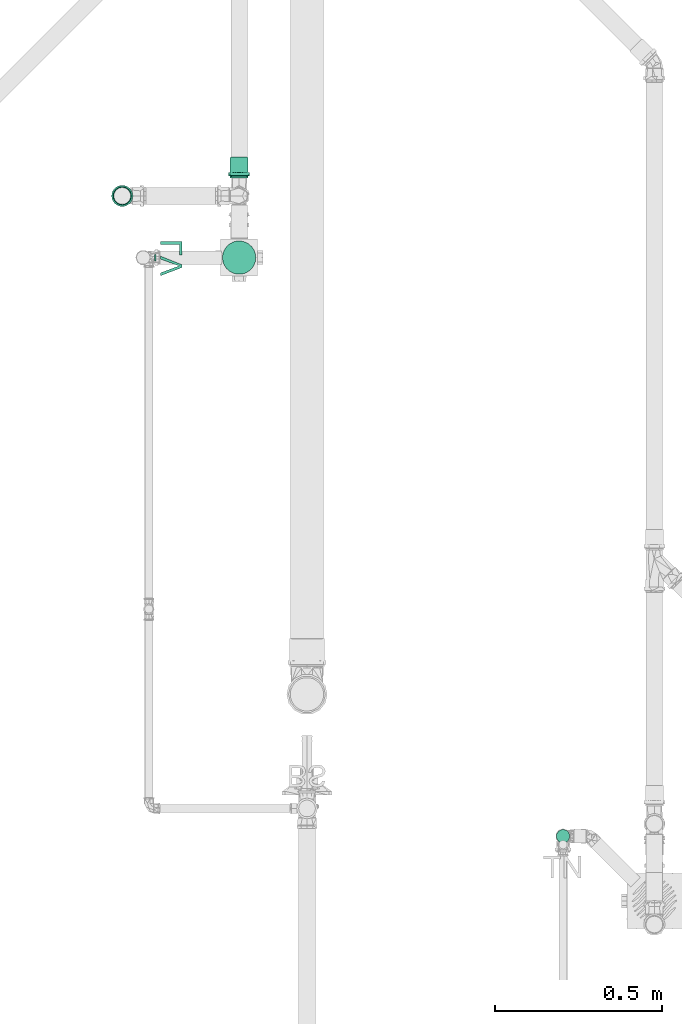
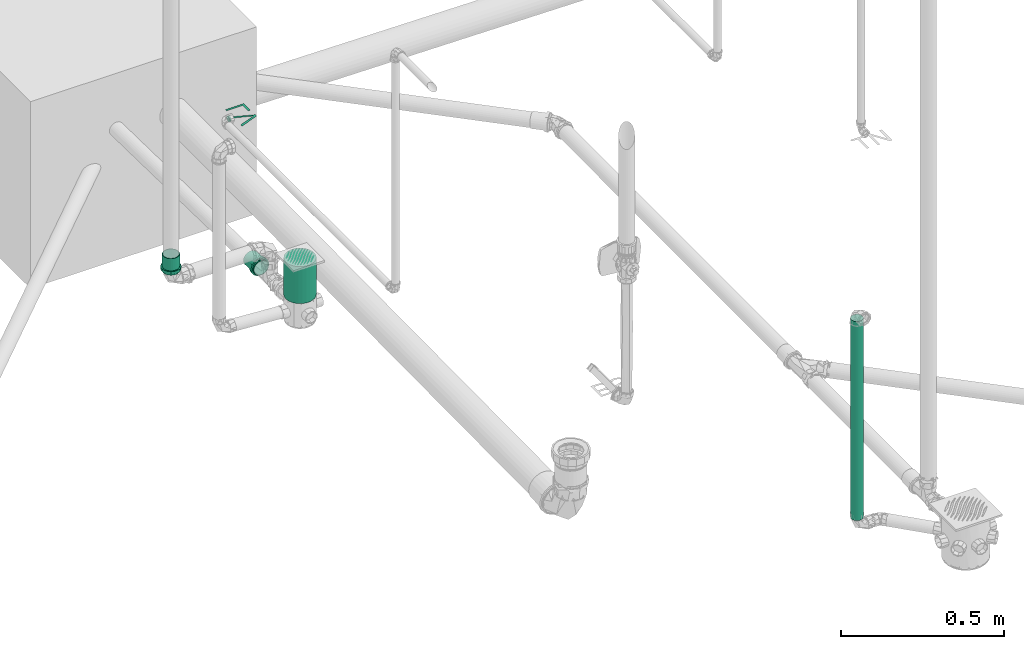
# One storey, part 216 of 589: 2 flow fittings, 2 flow segments, 1 flow terminal.
"""IFC2X3 building model written with IfcOpenShell, lengths in millimetres."""

from ifc_helpers import new_model, entity, si_unit, converted_unit, derived_unit, direction, frame, frame_2d, origin, origin_2d_with_axis, place, context, subcontext, project, spatial, circle, extrude, face_set, faceted_brep, surface_model, source, transform, mapped, material, type_object, type_shapes, element, save


model = new_model("IFC2X3")

# Units and contexts
model_context = context("Model", 3, precision=0.01, world=origin(), true_north=direction((6.123031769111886e-17, 1.0)))
body_context = subcontext(model_context, "Body", "Model", "MODEL_VIEW")
ifc_project = project(units=[si_unit("LENGTHUNIT", "METRE", prefix="MILLI"), si_unit("AREAUNIT", "SQUARE_METRE"), si_unit("VOLUMEUNIT", "CUBIC_METRE"), converted_unit("PLANEANGLEUNIT", "DEGREE", entity("IfcRatioMeasure", 0.017453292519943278), si_unit("PLANEANGLEUNIT", "RADIAN"), dimensions=[0, 0, 0, 0, 0, 0, 0]), si_unit("MASSUNIT", "GRAM", prefix="KILO"), derived_unit("MASSDENSITYUNIT", [(si_unit("MASSUNIT", "GRAM", prefix="KILO"), 1), (si_unit("LENGTHUNIT", "METRE"), -3)]), derived_unit("IONCONCENTRATIONUNIT", [(si_unit("MASSUNIT", "GRAM", prefix="KILO"), 1), (si_unit("LENGTHUNIT", "METRE"), -3)]), derived_unit("MOMENTOFINERTIAUNIT", [(si_unit("LENGTHUNIT", "METRE"), 4)]), si_unit("TIMEUNIT", "SECOND"), si_unit("FREQUENCYUNIT", "HERTZ"), si_unit("THERMODYNAMICTEMPERATUREUNIT", "DEGREE_CELSIUS"), derived_unit("THERMALTRANSMITTANCEUNIT", [(si_unit("MASSUNIT", "GRAM", prefix="KILO"), 1), (si_unit("THERMODYNAMICTEMPERATUREUNIT", "KELVIN"), -1), (si_unit("TIMEUNIT", "SECOND"), -3)]), derived_unit("THERMALCONDUCTANCEUNIT", [(si_unit("MASSUNIT", "GRAM", prefix="KILO"), 1), (si_unit("THERMODYNAMICTEMPERATUREUNIT", "KELVIN"), -1), (si_unit("TIMEUNIT", "SECOND"), -3), (si_unit("LENGTHUNIT", "METRE"), 1)]), derived_unit("VOLUMETRICFLOWRATEUNIT", [(si_unit("LENGTHUNIT", "METRE"), 3), (si_unit("TIMEUNIT", "SECOND"), -1)]), derived_unit("MASSFLOWRATEUNIT", [(si_unit("MASSUNIT", "GRAM", prefix="KILO"), 1), (si_unit("TIMEUNIT", "SECOND"), -1)]), derived_unit("ROTATIONALFREQUENCYUNIT", [(si_unit("TIMEUNIT", "SECOND"), -1)]), si_unit("ELECTRICCURRENTUNIT", "AMPERE"), si_unit("ELECTRICVOLTAGEUNIT", "VOLT"), si_unit("POWERUNIT", "WATT"), si_unit("FORCEUNIT", "NEWTON", prefix="KILO"), si_unit("ILLUMINANCEUNIT", "LUX"), si_unit("LUMINOUSFLUXUNIT", "LUMEN"), si_unit("LUMINOUSINTENSITYUNIT", "CANDELA"), derived_unit("USERDEFINED", [(si_unit("MASSUNIT", "GRAM", prefix="KILO"), -1), (si_unit("LENGTHUNIT", "METRE"), -2), (si_unit("TIMEUNIT", "SECOND"), 3), (si_unit("LUMINOUSFLUXUNIT", "LUMEN"), 1)]), derived_unit("USERDEFINED", [(si_unit("MASSUNIT", "GRAM", prefix="KILO"), 1), (si_unit("TIMEUNIT", "SECOND"), -3), (si_unit("LENGTHUNIT", "METRE"), 3), (si_unit("ELECTRICCURRENTUNIT", "AMPERE"), -2)]), derived_unit("SOUNDPOWERUNIT", [(si_unit("MASSUNIT", "GRAM", prefix="KILO"), 1), (si_unit("TIMEUNIT", "SECOND"), -3), (si_unit("LENGTHUNIT", "METRE"), 2)]), derived_unit("SOUNDPRESSUREUNIT", [(si_unit("MASSUNIT", "GRAM", prefix="KILO"), 1), (si_unit("LENGTHUNIT", "METRE"), -1), (si_unit("TIMEUNIT", "SECOND"), -2)]), derived_unit("LINEARVELOCITYUNIT", [(si_unit("LENGTHUNIT", "METRE"), 1), (si_unit("TIMEUNIT", "SECOND"), -1)]), si_unit("PRESSUREUNIT", "PASCAL"), derived_unit("USERDEFINED", [(si_unit("MASSUNIT", "GRAM", prefix="KILO"), 1), (si_unit("LENGTHUNIT", "METRE"), -2), (si_unit("TIMEUNIT", "SECOND"), -2)]), derived_unit("LINEARFORCEUNIT", [(si_unit("MASSUNIT", "GRAM", prefix="KILO"), 1), (si_unit("TIMEUNIT", "SECOND"), -2)]), derived_unit("PLANARFORCEUNIT", [(si_unit("MASSUNIT", "GRAM", prefix="KILO"), 1), (si_unit("LENGTHUNIT", "METRE"), -1), (si_unit("TIMEUNIT", "SECOND"), -2)]), derived_unit("SPECIFICHEATCAPACITYUNIT", [(si_unit("THERMODYNAMICTEMPERATUREUNIT", "KELVIN"), -1), (si_unit("LENGTHUNIT", "METRE"), 2), (si_unit("TIMEUNIT", "SECOND"), -2)]), derived_unit("HEATINGVALUEUNIT", [(si_unit("LENGTHUNIT", "METRE"), 2), (si_unit("TIMEUNIT", "SECOND"), -2)]), derived_unit("VAPORPERMEABILITYUNIT", [(si_unit("LENGTHUNIT", "METRE"), -1), (si_unit("TIMEUNIT", "SECOND"), 1)]), derived_unit("DYNAMICVISCOSITYUNIT", [(si_unit("MASSUNIT", "GRAM", prefix="KILO"), 1), (si_unit("TIMEUNIT", "SECOND"), -1), (si_unit("LENGTHUNIT", "METRE"), -1)]), derived_unit("THERMALEXPANSIONCOEFFICIENTUNIT", [(si_unit("THERMODYNAMICTEMPERATUREUNIT", "KELVIN"), -1)]), derived_unit("MODULUSOFELASTICITYUNIT", [(si_unit("MASSUNIT", "GRAM", prefix="KILO"), 1), (si_unit("LENGTHUNIT", "METRE"), -1), (si_unit("TIMEUNIT", "SECOND"), -2)]), derived_unit("ISOTHERMALMOISTURECAPACITYUNIT", [(si_unit("LENGTHUNIT", "METRE"), 3), (si_unit("MASSUNIT", "GRAM", prefix="KILO"), -1)]), derived_unit("MOISTUREDIFFUSIVITYUNIT", [(si_unit("TIMEUNIT", "SECOND"), -1), (si_unit("LENGTHUNIT", "METRE"), 2)])], contexts=[model_context])

# Site, building, storey
site_placement = place(None, origin())
site = spatial("IfcSite", under=ifc_project, at=site_placement, Name="Default", CompositionType="ELEMENT")
building_placement = place(site_placement, origin())
building = spatial("IfcBuilding", under=site, at=building_placement, CompositionType="ELEMENT")
storey_placement = place(building_placement, frame((0.0, 0.0, 100.0)))
storey = spatial("IfcBuildingStorey", under=building, at=storey_placement, Name="TÉRREO", CompositionType="ELEMENT", Elevation=100.0)

# Flow segments
pipe_segment_type = type_object("IfcPipeSegmentType", Name="Tipos de tubos:PVC Esgoto Série Normal", PredefinedType="NOTDEFINED")
flow_segment_1_placement = place(storey_placement, origin())
element("IfcFlowSegment", 1, at=flow_segment_1_placement, inside=storey, type_object=pipe_segment_type, Name="Tipos de tubos:PVC Esgoto Série Normal", ObjectType="Tipos de tubos:PVC Esgoto Série Normal", context=body_context, shape_type="SweptSolid", body=[
    extrude(circle(Radius=50.0, at=origin_2d_with_axis()), frame((10412.795167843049, 1172.3181290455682, -144.90911149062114), z_axis=(0.0, 0.0, 1.0), x_axis=(-1.0, 0.0, 0.0)), (0.0, 0.0, 1.0), 138.40911149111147),
])
flow_segment_2_placement = place(storey_placement, origin())
element("IfcFlowSegment", 2, at=flow_segment_2_placement, inside=storey, type_object=pipe_segment_type, Name="Tipos de tubos:PVC Esgoto Série Normal", ObjectType="Tipos de tubos:PVC Esgoto Série Normal", context=body_context, shape_type="SweptSolid", body=[
    extrude(circle(Radius=20.0, at=frame_2d((0.0, 2.026695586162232e-18), x_axis=(1.0, 0.0))), frame((11382.996050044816, -560.6382368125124, -266.4605540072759)), (0.0, 0.0, 1.0), 744.6605543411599),
])

# Flow fittings
ifc_material_1 = material(Name="PVC Série Normal")
pipe_fitting_type = type_object("IfcPipeFittingType", Name="PVC Esgoto_Luva Simples para Conexão_Rodrigo MEP:Standard", PredefinedType="NOTDEFINED", material=ifc_material_1)
shared_shape_1 = source(origin(), body_context, "Body", "Brep", [
    faceted_brep([(16.599999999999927, 15.900000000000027, -27.53960784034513), (16.599999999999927, 22.485995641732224, -22.485995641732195), (16.599999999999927, 13.599999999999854, -23.555890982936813), (16.599999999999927, 7.039878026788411, -26.273182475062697), (16.599999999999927, 8.2304456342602, -30.71644127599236), (16.599999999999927, 19.233304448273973, -19.233304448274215), (16.599999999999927, 27.539607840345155, -15.899999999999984), (16.599999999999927, 23.55589098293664, -13.600000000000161), (16.599999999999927, 26.273182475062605, -7.03987802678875), (16.599999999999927, 30.716441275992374, -8.230445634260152), (16.599999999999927, 27.2, 0.0), (16.599999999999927, 31.8, 0.0), (16.599999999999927, 26.273182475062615, 7.0398780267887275), (16.599999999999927, 30.71644127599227, 8.23044563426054), (16.599999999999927, 23.555890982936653, 13.60000000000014), (16.599999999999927, 27.539607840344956, 15.900000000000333), (16.599999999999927, 19.233304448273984, 19.2333044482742), (16.599999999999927, 22.485995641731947, 22.48599564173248), (16.599999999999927, 13.599999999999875, 23.555890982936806), (16.599999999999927, 15.899999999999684, 27.53960784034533), (16.599999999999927, 7.039878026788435, 26.27318247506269), (16.599999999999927, 8.230445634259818, 30.716441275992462), (16.599999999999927, 0.0, 27.2), (16.599999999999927, 0.0, 31.8), (16.599999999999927, -7.039878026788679, 26.273182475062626), (16.599999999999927, -8.230445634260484, 30.716441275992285), (16.599999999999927, -13.600000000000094, 23.555890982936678), (16.599999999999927, -15.900000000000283, 27.53960784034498), (16.599999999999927, -19.23330444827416, 19.233304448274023), (16.599999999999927, -22.485995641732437, 22.48599564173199), (16.599999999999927, -23.55589098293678, 13.59999999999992), (16.599999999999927, -27.539607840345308, 15.899999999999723), (16.599999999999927, -30.71644127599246, 8.230445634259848), (16.599999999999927, -26.273182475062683, 7.039878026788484), (16.599999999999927, -31.8, 0.0), (16.599999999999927, -27.2, 0.0), (16.599999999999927, -30.71644127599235, -8.23044563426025), (16.599999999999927, -26.273182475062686, -7.03987802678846), (16.599999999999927, -27.53960784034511, -15.90000000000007), (16.599999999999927, -23.55589098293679, -13.599999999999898), (16.599999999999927, -22.485995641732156, -22.485995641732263), (16.599999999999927, -19.233304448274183, -19.233304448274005), (16.599999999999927, -15.899999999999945, -27.53960784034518), (16.599999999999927, -13.600000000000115, -23.555890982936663), (16.599999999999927, -8.230445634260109, -30.716441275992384), (16.599999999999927, -7.039878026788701, -26.273182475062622), (16.599999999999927, 0.0, -31.8), (16.599999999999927, 0.0, -27.2), (6.500000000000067, -10.708108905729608, 29.429219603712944), (6.500000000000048, -24.359073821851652, 20.44200387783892), (6.500000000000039, -27.120498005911, 15.6595386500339), (6.50000000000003, -29.881922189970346, 10.877073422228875), (6.500000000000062, -15.89769721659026, 27.540937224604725), (6.500000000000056, -20.128385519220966, 23.991470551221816), (6.50000000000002, -30.840961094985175, 5.438536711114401), (6.5000000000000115, -31.8, 0.0), (6.50000000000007, -5.518520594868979, 31.317501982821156), (6.500000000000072, 5.526376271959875, 31.316116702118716), (6.50000000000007, 0.00392783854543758, 31.316809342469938), (6.500000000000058, 20.134403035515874, 23.986420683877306), (6.500000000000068, 10.715490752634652, 29.42653259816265), (6.500000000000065, 15.904605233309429, 27.536948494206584), (6.500000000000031, 29.8846497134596, 10.869577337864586), (6.500000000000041, 27.12442527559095, 15.652735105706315), (6.5000000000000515, 24.364200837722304, 20.435892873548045), (6.5000000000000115, 31.8, 0.0), (6.499999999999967, 24.364200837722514, -20.435892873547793), (6.499999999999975, 27.12442527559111, -15.652735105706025), (6.499999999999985, 29.884649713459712, -10.869577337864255), (6.4999999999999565, 15.904605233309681, -27.53694849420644), (6.499999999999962, 20.134403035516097, -23.986420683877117), (6.499999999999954, 10.715490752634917, -29.42653259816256), (6.499999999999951, 5.526376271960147, -31.31611670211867), (6.499999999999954, -5.518520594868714, -31.317501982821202), (6.499999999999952, 0.003927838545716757, -31.316809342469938), (6.499999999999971, -20.128385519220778, -23.99147055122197), (6.499999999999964, -15.897697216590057, -27.54093722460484), (6.499999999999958, -10.70810890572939, -29.42921960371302), (6.499999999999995, -29.881922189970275, -10.877073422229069), (6.499999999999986, -27.12049800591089, -15.659538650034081), (6.499999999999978, -24.359073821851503, -20.442003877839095), (6.500000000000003, -30.840961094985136, -5.438536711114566), (6.499999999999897, -30.696173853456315, -6.259599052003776), (62.0, 13.600000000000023, -23.55589098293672), (62.0, 19.233304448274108, -19.23330444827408), (62.0, 12.499999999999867, -21.650635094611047), (62.0, 6.470476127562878, -24.14814565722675), (62.0, 7.039878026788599, -26.273182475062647), (62.0, 17.677669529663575, -17.677669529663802), (62.0, 23.55589098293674, -13.599999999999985), (62.0, 21.65063509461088, -12.50000000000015), (62.0, 24.148145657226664, -6.470476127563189), (62.0, 26.27318247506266, -7.039878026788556), (62.0, 25.0, 0.0), (62.0, 27.2, 0.0), (62.0, 24.148145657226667, 6.4704761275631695), (62.0, 26.273182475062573, 7.03987802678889), (62.0, 21.650635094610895, 12.500000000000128), (62.0, 23.555890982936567, 13.600000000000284), (62.0, 17.67766952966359, 17.67766952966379), (62.0, 19.233304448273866, 19.233304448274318), (62.0, 12.499999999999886, 21.650635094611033), (62.0, 13.59999999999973, 23.55589098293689), (62.0, 6.4704761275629, 24.14814565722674), (62.0, 7.039878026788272, 26.273182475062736), (62.0, 0.0, 25.0), (62.0, 0.0, 27.2), (62.0, -6.470476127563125, 24.148145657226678), (62.0, -7.039878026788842, 26.273182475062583), (62.0, -12.500000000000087, 21.650635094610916), (62.0, -13.600000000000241, 23.555890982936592), (62.0, -17.677669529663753, 17.677669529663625), (62.0, -19.233304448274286, 19.2333044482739), (62.0, -21.65063509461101, 12.499999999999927), (62.0, -23.555890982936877, 13.599999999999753), (62.0, -26.27318247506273, 7.039878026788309), (62.0, -24.14814565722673, 6.470476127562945), (62.0, -27.2, 0.0), (62.0, -25.0, 0.0), (62.0, -26.27318247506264, -7.0398780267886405), (62.0, -24.148145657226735, -6.470476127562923), (62.0, -23.5558909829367, -13.600000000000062), (62.0, -21.650635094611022, -12.499999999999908), (62.0, -19.233304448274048, -19.233304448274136), (62.0, -17.67766952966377, -17.677669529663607), (62.0, -13.599999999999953, -23.555890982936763), (62.0, -12.500000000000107, -21.650635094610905), (62.0, -7.039878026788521, -26.27318247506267), (62.0, -6.470476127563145, -24.148145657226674), (62.0, 0.0, -27.2), (62.0, 0.0, -25.0), (0.0, 12.499999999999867, -21.650635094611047), (0.0, 19.233304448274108, -19.23330444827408), (0.0, 13.600000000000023, -23.55589098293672), (0.0, 6.470476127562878, -24.14814565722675), (0.0, 17.677669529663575, -17.677669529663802), (0.0, 23.55589098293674, -13.599999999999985), (0.0, 21.65063509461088, -12.50000000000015), (0.0, 24.148145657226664, -6.470476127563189), (0.0, 26.27318247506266, -7.039878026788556), (0.0, 25.0, 0.0), (0.0, 27.2, 0.0), (0.0, 24.148145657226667, 6.4704761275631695), (0.0, 26.273182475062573, 7.03987802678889), (0.0, 21.650635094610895, 12.500000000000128), (0.0, 23.555890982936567, 13.600000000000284), (0.0, 17.67766952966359, 17.67766952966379), (0.0, 19.233304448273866, 19.233304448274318), (0.0, 12.499999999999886, 21.650635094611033), (0.0, 13.59999999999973, 23.55589098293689), (0.0, 6.4704761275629, 24.14814565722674), (0.0, 7.039878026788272, 26.273182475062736), (0.0, 0.0, 25.0), (0.0, 0.0, 27.2), (0.0, -6.470476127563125, 24.148145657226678), (0.0, -7.039878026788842, 26.273182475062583), (0.0, -12.500000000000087, 21.650635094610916), (0.0, -13.600000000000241, 23.555890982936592), (0.0, -17.677669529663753, 17.677669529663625), (0.0, -19.233304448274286, 19.2333044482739), (0.0, -21.65063509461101, 12.499999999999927), (0.0, -23.555890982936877, 13.599999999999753), (0.0, -26.27318247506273, 7.039878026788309), (0.0, -24.14814565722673, 6.470476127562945), (0.0, -27.2, 0.0), (0.0, -25.0, 0.0), (0.0, -26.27318247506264, -7.0398780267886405), (0.0, -24.148145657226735, -6.470476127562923), (0.0, -23.5558909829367, -13.600000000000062), (0.0, -21.650635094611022, -12.499999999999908), (0.0, -19.233304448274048, -19.233304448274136), (0.0, -17.67766952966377, -17.677669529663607), (0.0, -13.599999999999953, -23.555890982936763), (0.0, -12.500000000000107, -21.650635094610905), (0.0, -7.039878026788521, -26.27318247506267), (0.0, -6.470476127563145, -24.148145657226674), (0.0, 0.0, -27.2), (0.0, 0.0, -25.0), (0.0, 7.039878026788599, -26.273182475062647), (5.300000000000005, -26.37968999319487, 4.651830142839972), (5.299999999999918, -26.25584678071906, 5.354122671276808), (5.300000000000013, -25.559379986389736, 9.303660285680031), (5.300000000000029, -20.835434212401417, 17.48498444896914), (5.300000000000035, -17.216732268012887, 20.521006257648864), (5.300000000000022, -23.19740709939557, 13.394322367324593), (5.3000000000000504, -4.720244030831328, 26.787297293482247), (5.300000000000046, -9.15913717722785, 25.172162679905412), (5.299999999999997, -27.2, 0.0), (5.300000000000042, -13.598030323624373, 23.557028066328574), (5.300000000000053, 9.165451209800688, 25.169864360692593), (5.300000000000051, 13.603939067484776, 23.55361632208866), (5.300000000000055, 4.7269633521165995, 26.786112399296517), (5.300000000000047, 17.221879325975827, 20.516686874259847), (5.300000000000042, 20.839819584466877, 17.479757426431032), (5.3000000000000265, 25.56171296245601, 9.297248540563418), (5.299999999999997, 27.2, 0.0), (5.3000000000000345, 23.20076627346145, 13.388502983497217), (5.300000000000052, 0.003359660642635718, 26.786704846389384), (5.299999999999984, 25.56171296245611, -9.29724854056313), (5.299999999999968, 20.839819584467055, -17.47975742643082), (5.2999999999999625, 17.22187932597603, -20.516686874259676), (5.299999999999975, 23.200766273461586, -13.388502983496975), (5.299999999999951, 4.726963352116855, -26.78611239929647), (5.2999999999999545, 9.165451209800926, -25.169864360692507), (5.299999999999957, 13.603939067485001, -23.553616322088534), (5.29999999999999, -26.379689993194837, -4.651830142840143), (5.299999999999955, -9.159137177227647, -25.17216267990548), (5.299999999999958, -13.5980303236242, -23.55702806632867), (5.299999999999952, -4.720244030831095, -26.787297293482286), (5.299999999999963, -17.216732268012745, -20.52100625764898), (5.299999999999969, -20.83543421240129, -17.484984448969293), (5.299999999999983, -25.559379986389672, -9.303660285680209), (5.299999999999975, -23.197407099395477, -13.394322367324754), (5.299999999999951, 0.003359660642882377, -26.78670484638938), (39.0, -25.0, 0.0), (39.0, 25.0, 0.0)], [[[0, 1, 2]], [[0, 2, 3]], [[3, 4, 0]], [[2, 1, 5]], [[6, 5, 1]], [[7, 5, 6]], [[8, 7, 6]], [[8, 6, 9]], [[8, 9, 10]], [[10, 9, 11]], [[12, 10, 11]], [[12, 11, 13]], [[14, 12, 13]], [[14, 13, 15]], [[16, 14, 15]], [[15, 17, 16]], [[17, 18, 16]], [[17, 19, 18]], [[18, 19, 20]], [[21, 20, 19]], [[20, 21, 22]], [[22, 21, 23]], [[22, 23, 24]], [[24, 23, 25]], [[24, 25, 26]], [[27, 26, 25]], [[27, 28, 26]], [[28, 27, 29]], [[30, 28, 29]], [[31, 30, 29]], [[32, 30, 31]], [[33, 30, 32]], [[33, 32, 34]], [[35, 33, 34]], [[36, 35, 34]], [[36, 37, 35]], [[37, 36, 38]], [[39, 37, 38]], [[39, 38, 40]], [[39, 40, 41]], [[40, 42, 41]], [[41, 42, 43]], [[43, 42, 44]], [[44, 45, 43]], [[46, 45, 44]], [[4, 47, 46]], [[46, 47, 45]], [[4, 3, 47]], [[48, 27, 25]], [[31, 29, 49]], [[31, 49, 50, 51]], [[52, 53, 27]], [[32, 51, 54]], [[54, 55, 34]], [[54, 34, 32]], [[25, 56, 48]], [[49, 29, 53]], [[23, 57, 58, 56]], [[59, 19, 17]], [[27, 53, 29]], [[48, 52, 27]], [[31, 51, 32]], [[57, 23, 21]], [[60, 19, 61]], [[15, 62, 63, 64]], [[19, 60, 21]], [[15, 13, 62]], [[17, 64, 59]], [[57, 21, 60]], [[23, 56, 25]], [[15, 64, 17]], [[13, 65, 62]], [[13, 11, 65]], [[59, 61, 19]], [[65, 11, 9]], [[6, 1, 66]], [[6, 66, 67, 68]], [[69, 70, 0]], [[68, 65, 9]], [[71, 69, 0]], [[71, 0, 4]], [[4, 72, 71]], [[66, 1, 70]], [[46, 73, 74, 72]], [[75, 76, 42]], [[0, 70, 1]], [[75, 42, 40]], [[6, 68, 9]], [[73, 46, 44]], [[77, 42, 76]], [[38, 78, 79, 80]], [[42, 77, 44]], [[38, 36, 78]], [[40, 80, 75]], [[73, 44, 77]], [[46, 72, 4]], [[38, 80, 40]], [[36, 81, 82, 78]], [[55, 81, 34]], [[34, 81, 36]], [[83, 84, 85]], [[83, 85, 86]], [[86, 87, 83]], [[85, 84, 88]], [[89, 88, 84]], [[88, 89, 90]], [[90, 89, 91]], [[92, 91, 89]], [[92, 93, 91]], [[93, 92, 94]], [[95, 93, 94]], [[94, 96, 95]], [[95, 96, 97]], [[98, 97, 96]], [[97, 98, 99]], [[99, 98, 100]], [[101, 99, 100]], [[100, 102, 101]], [[101, 102, 103]], [[104, 103, 102]], [[103, 104, 105]], [[105, 104, 106]], [[105, 106, 107]], [[107, 106, 108]], [[107, 108, 109]], [[110, 109, 108]], [[110, 111, 109]], [[111, 110, 112]], [[112, 113, 111]], [[114, 113, 112]], [[113, 114, 115]], [[115, 116, 113]], [[117, 116, 115]], [[117, 118, 116]], [[119, 118, 117]], [[119, 120, 118]], [[120, 119, 121]], [[121, 122, 120]], [[122, 121, 123]], [[122, 123, 124]], [[123, 125, 124]], [[124, 125, 126]], [[126, 125, 127]], [[127, 128, 126]], [[129, 128, 127]], [[87, 130, 129]], [[129, 130, 128]], [[87, 86, 130]], [[131, 132, 133]], [[134, 131, 133]], [[135, 132, 131]], [[132, 135, 136]], [[137, 136, 135]], [[138, 136, 137]], [[136, 138, 139]], [[138, 140, 139]], [[141, 139, 140]], [[141, 140, 142]], [[142, 143, 141]], [[144, 143, 142]], [[143, 144, 145]], [[146, 145, 144]], [[147, 145, 146]], [[147, 146, 148]], [[148, 149, 147]], [[150, 149, 148]], [[149, 150, 151]], [[152, 151, 150]], [[153, 151, 152]], [[154, 153, 152]], [[155, 153, 154]], [[156, 155, 154]], [[155, 156, 157]], [[156, 158, 157]], [[159, 157, 158]], [[158, 160, 159]], [[159, 160, 161]], [[162, 161, 160]], [[160, 163, 162]], [[162, 163, 164]], [[163, 165, 164]], [[164, 165, 166]], [[165, 167, 166]], [[168, 166, 167]], [[167, 169, 168]], [[170, 168, 169]], [[171, 170, 169]], [[171, 172, 170]], [[173, 172, 171]], [[174, 172, 173]], [[173, 175, 174]], [[174, 175, 176]], [[175, 177, 176]], [[177, 134, 178]], [[176, 177, 178]], [[133, 178, 134]], [[162, 179, 180, 181]], [[159, 182, 183]], [[182, 161, 181, 184]], [[185, 155, 186]], [[161, 162, 181]], [[187, 179, 164]], [[183, 188, 157]], [[183, 157, 159]], [[161, 182, 159]], [[189, 190, 149]], [[189, 149, 151]], [[157, 188, 186]], [[157, 186, 155]], [[153, 155, 185]], [[164, 179, 162]], [[151, 191, 189]], [[147, 192, 193]], [[143, 194, 195]], [[194, 145, 193, 196]], [[143, 195, 141]], [[10, 12, 96, 94]], [[149, 192, 147]], [[153, 185, 197, 191]], [[153, 191, 151]], [[145, 147, 193]], [[190, 192, 149]], [[145, 194, 143]], [[139, 195, 198]], [[132, 199, 200]], [[199, 136, 198, 201]], [[202, 178, 203]], [[136, 139, 198]], [[139, 141, 195]], [[92, 8, 10, 94]], [[133, 203, 178]], [[200, 204, 133]], [[136, 199, 132]], [[205, 164, 166]], [[206, 207, 172]], [[133, 204, 203]], [[206, 172, 174]], [[176, 178, 202]], [[200, 133, 132]], [[174, 208, 206]], [[170, 209, 210]], [[166, 211, 205]], [[211, 168, 210, 212]], [[168, 211, 166]], [[172, 209, 170]], [[176, 202, 213, 208]], [[176, 208, 174]], [[168, 170, 210]], [[207, 209, 172]], [[205, 187, 164]], [[116, 118, 214, 165, 163]], [[156, 109, 111, 158]], [[111, 113, 160, 158]], [[113, 116, 163, 160]], [[107, 109, 156, 154]], [[154, 152, 105, 107]], [[103, 105, 152, 150]], [[103, 150, 148, 101]], [[142, 95, 97, 144]], [[97, 99, 146, 144]], [[99, 101, 148, 146]], [[93, 95, 142, 140, 215]], [[215, 140, 138, 91, 93]], [[135, 131, 85, 88]], [[90, 91, 138, 137]], [[90, 137, 135, 88]], [[86, 85, 131, 134]], [[134, 177, 130, 86]], [[128, 130, 177, 175]], [[128, 175, 173, 126]], [[167, 120, 122, 169]], [[122, 124, 171, 169]], [[124, 126, 173, 171]], [[118, 120, 167, 165, 214]], [[211, 78, 82, 81, 55, 187, 205]], [[79, 78, 211, 212, 210, 80]], [[75, 80, 210, 209, 207, 76]], [[207, 206, 208, 73, 77, 76]], [[213, 202, 72, 74, 73, 208]], [[203, 204, 69, 71, 72, 202]], [[198, 195, 65, 68]], [[199, 201, 198, 68, 67, 66]], [[204, 200, 199, 66, 70, 69]], [[195, 194, 62, 65]], [[197, 185, 56, 58, 57, 191]], [[63, 62, 194, 196, 193, 64]], [[57, 60, 61, 190, 189, 191]], [[193, 192, 190, 61, 59, 64]], [[48, 56, 185, 186, 188, 52]], [[187, 55, 54, 51, 181, 180, 179]], [[182, 184, 181, 51, 50, 49]], [[188, 183, 182, 49, 53, 52]], [[30, 33, 115, 114]], [[117, 115, 33, 35]], [[26, 28, 112, 110]], [[114, 112, 28, 30]], [[24, 26, 110, 108]], [[108, 106, 22, 24]], [[18, 20, 104, 102]], [[100, 16, 18, 102]], [[12, 14, 98, 96]], [[100, 98, 14, 16]], [[104, 20, 22, 106]], [[89, 7, 8, 92]], [[83, 87, 3, 2]], [[7, 89, 84, 5]], [[83, 2, 5, 84]], [[87, 129, 47, 3]], [[43, 45, 127, 125]], [[123, 41, 43, 125]], [[37, 39, 121, 119]], [[123, 121, 39, 41]], [[35, 37, 119, 117]], [[127, 45, 47, 129]]]),
])
type_shapes(pipe_fitting_type, [shared_shape_1])
for number, where, z_axis, x_axis, name in (
    (3, (10062.73595310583, 1357.0692483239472, -44.267559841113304), (0.0, 1.0, 0.0), (0.0, 0.0, 1.0), "PVC Esgoto_Luva Simples para Conexão_Rodrigo MEP:Standard"),
    (4, (10412.795167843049, 1410.6585315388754, -190.12253758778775), (1.0, 0.0, 0.0), (0.0, 0.9998000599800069, -0.019996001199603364), "PVC Esgoto_Luva Simples para Conexão_Rodrigo MEP:Standard"),
):
    element("IfcFlowFitting", number, at=place(storey_placement, frame(where, z_axis=z_axis, x_axis=x_axis)), inside=storey, type_object=pipe_fitting_type, material=ifc_material_1, Name=name, ObjectType="PVC Esgoto_Luva Simples para Conexão_Rodrigo MEP:Standard", context=body_context, shape_type="MappedRepresentation", body=[
        mapped(shared_shape_1, transform((0.0, 0.0, 0.0), scale=1.0)),
    ])

# Flow terminal
ifc_material_2 = material(Name="<Unnamed>")
distribution_element_type = type_object("IfcDistributionElementType", Name="Hidráulica_Ponto de Utilização_Uso Provável_Rodrigo MEP:Lavatório LV (Peso 0,3) 60cm do Piso", material=ifc_material_2)
shared_shape_2 = source(origin(), body_context, "Body", "SurfaceModel", [
    surface_model("IfcFaceBasedSurfaceModel", [(0.0, 83.06704158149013, 11.595272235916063), (0.0, 17.77043998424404, 11.595272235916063), (8.162075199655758, 17.77043998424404, 11.595272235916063), (8.162075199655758, 74.90496638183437, 11.595272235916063), (40.81037599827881, 74.90496638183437, 11.595272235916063), (40.81037599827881, 83.06704158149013, 11.595272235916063), (69.281989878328, 83.06704158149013, 11.595272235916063), (43.29725828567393, 17.77043998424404, 11.595272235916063), (52.03322939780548, 17.77043998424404, 11.595272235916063), (69.42546385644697, 64.81396325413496, 11.595272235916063), (72.94854709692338, 75.41509608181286, 11.595272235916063), (76.4238056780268, 64.81396325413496, 11.595272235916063), (93.86386479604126, 17.77043998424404, 11.595272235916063), (102.59983590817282, 17.77043998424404, 11.595272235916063), (77.71507148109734, 83.06704158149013, 11.595272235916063), (37.95219179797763, 5.0, 11.595272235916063), (38.292933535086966, 5.0, 14.18346268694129), (39.291937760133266, 5.0, 16.595272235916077), (40.88112398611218, 5.0, 18.666340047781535), (42.95219179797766, 5.0, 20.255526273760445), (45.36400134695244, 5.0, 21.254530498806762), (47.952191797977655, 5.0, 21.59527223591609), (50.54038224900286, 5.0, 21.254530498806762), (52.95219179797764, 5.0, 20.255526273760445), (55.023259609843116, 5.0, 18.666340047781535), (56.61244583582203, 5.0, 16.595272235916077), (57.61145006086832, 5.0, 14.18346268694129), (57.95219179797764, 5.0, 11.595272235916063), (57.6114500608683, 5.0, 9.007081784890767), (56.612445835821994, 5.0, 6.595272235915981), (55.02325960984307, 5.0, 4.524204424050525), (52.95219179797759, 5.0, 2.9350181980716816), (50.540382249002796, 5.0, 1.936013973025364), (47.95219179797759, 5.0, 1.5952722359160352), (45.36400134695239, 5.0, 1.936013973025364), (42.952191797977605, 5.0, 2.9350181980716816), (40.88112398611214, 5.0, 4.524204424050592), (39.29193776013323, 5.0, 6.595272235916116), (38.292933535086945, 5.0, 9.007081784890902), (37.95219179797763, 0.0, 11.595272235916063), (38.292933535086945, 0.0, 9.007081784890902), (39.29193776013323, 0.0, 6.595272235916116), (40.88112398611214, 0.0, 4.524204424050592), (42.952191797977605, 0.0, 2.9350181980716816), (45.36400134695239, 0.0, 1.936013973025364), (47.95219179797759, 0.0, 1.5952722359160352), (50.540382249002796, 0.0, 1.936013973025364), (52.95219179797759, 0.0, 2.9350181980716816), (55.02325960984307, 0.0, 4.524204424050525), (56.612445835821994, 0.0, 6.595272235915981), (57.6114500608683, 0.0, 9.007081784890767), (57.95219179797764, 0.0, 11.595272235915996), (57.61145006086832, 0.0, 14.18346268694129), (56.61244583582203, 0.0, 16.595272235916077), (55.023259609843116, 0.0, 18.666340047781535), (52.95219179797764, 0.0, 20.255526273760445), (50.54038224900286, 0.0, 21.254530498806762), (47.952191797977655, 0.0, 21.59527223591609), (45.36400134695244, 0.0, 21.254530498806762), (42.95219179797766, 0.0, 20.255526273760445), (40.88112398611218, 0.0, 18.666340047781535), (39.291937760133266, 0.0, 16.595272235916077), (38.292933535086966, 0.0, 14.18346268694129)], [face_set([[[0, 1, 2, 3, 4, 5]], [[6, 7, 8, 9, 10, 11, 12, 13, 14]]]), face_set([[[15, 16, 17, 18, 19, 20, 21, 22, 23, 24, 25, 26, 27, 28, 29, 30, 31, 32, 33, 34, 35, 36, 37, 38]], [[39, 40, 41, 42, 43, 44, 45, 46, 47, 48, 49, 50, 51, 52, 53, 54, 55, 56, 57, 58, 59, 60, 61, 62]], [[38, 40, 39, 15]], [[37, 41, 40, 38]], [[35, 43, 42, 36]], [[36, 42, 41, 37]], [[34, 44, 43, 35]], [[44, 34, 33, 45]], [[32, 46, 45, 33]], [[31, 47, 46, 32]], [[29, 49, 48, 30]], [[30, 48, 47, 31]], [[28, 50, 49, 29]], [[50, 28, 27, 51]], [[26, 52, 51, 27]], [[25, 53, 52, 26]], [[23, 55, 54, 24]], [[24, 54, 53, 25]], [[22, 56, 55, 23]], [[56, 22, 21, 57]], [[20, 58, 57, 21]], [[19, 59, 58, 20]], [[17, 61, 60, 18]], [[18, 60, 59, 19]], [[16, 62, 61, 17]], [[62, 16, 15, 39]]])]),
])
type_shapes(distribution_element_type, [shared_shape_2])
flow_terminal_placement = place(storey_placement, frame((10158.825329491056, 1220.2703208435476, 588.4047277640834), z_axis=(0.0, 0.0, 1.0), x_axis=(0.0, -1.0, 0.0)))
element("IfcFlowTerminal", 5, at=flow_terminal_placement, inside=storey, type_object=distribution_element_type, material=ifc_material_2, Name="Hidráulica_Ponto de Utilização_Uso Provável_Rodrigo MEP:Lavatório LV (Peso 0,3) 60cm do Piso", ObjectType="Hidráulica_Ponto de Utilização_Uso Provável_Rodrigo MEP:Lavatório LV (Peso 0,3) 60cm do Piso", context=body_context, shape_type="MappedRepresentation", body=[
    mapped(shared_shape_2, transform((0.0, 0.0, 0.0), scale=1.0)),
])

save(model, "model.ifc")
